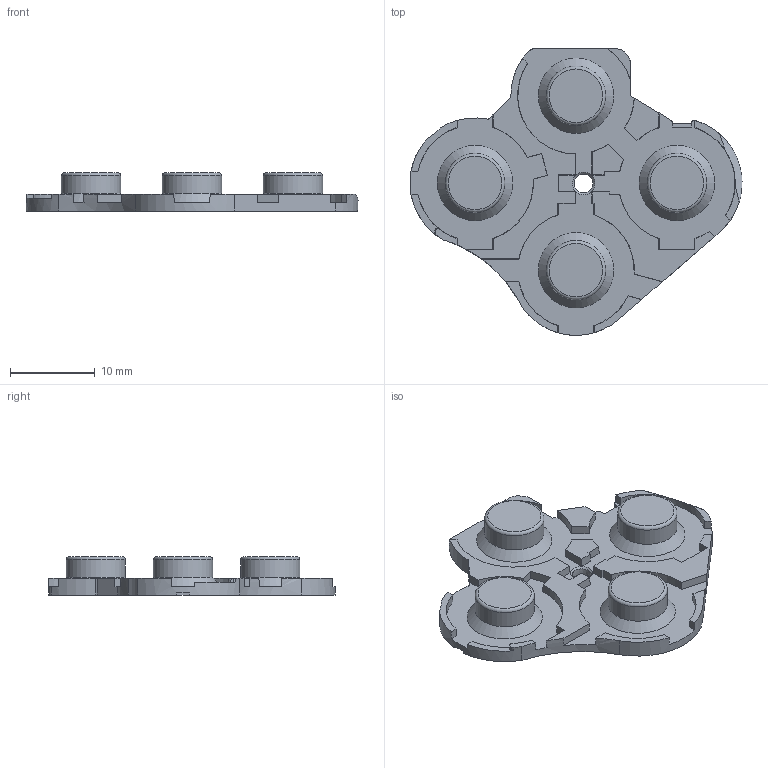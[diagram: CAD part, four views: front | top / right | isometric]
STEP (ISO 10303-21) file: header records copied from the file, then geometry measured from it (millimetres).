
FILE_DESCRIPTION(/* description */ (''),/* implementation_level */ '2;1');
FILE_NAME(/* name */ 'Silicone SEWN.step',/* time_stamp */ '2026-09-22T00:48:45-07:00',/* author */ (''),/* organization */ (''),/* preprocessor_version */ 'ST-DEVELOPER v20.2',/* originating_system */ 'Autodesk Translation Framework v15.15.0.0',/* authorisation */ '');
FILE_SCHEMA (('AUTOMOTIVE_DESIGN { 1 0 10303 214 3 1 1 }'));
Length unit declared in the file: millimetre
Products named in the file (1): 2026-09-22-00-48-45-105
Bounding box: 39.14 x 33.81 x 4.5 mm (x, y, z)
Volume: 1260.1 mm3; surface area: 2503.7 mm2
Topology: 1 solids, 1 shells, 197 faces, 541 edges, 355 vertices
Faces by surface type: plane 132, cone 27, cylinder 23, torus 8, bspline 7
Full cylindrical faces by diameter (mm): 5.4 x4, 7 x4, 8 x4
Entity records: 6789 total; most frequent: CARTESIAN_POINT 1676, DIRECTION 1098, ORIENTED_EDGE 1082, EDGE_CURVE 541, AXIS2_PLACEMENT_3D 417, VERTEX_POINT 355, LINE 264, VECTOR 264
